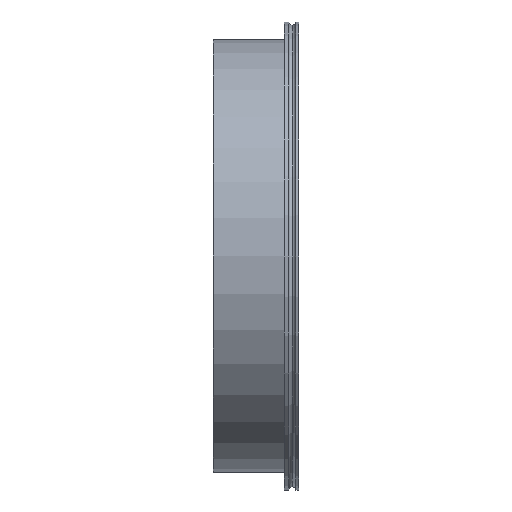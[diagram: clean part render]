
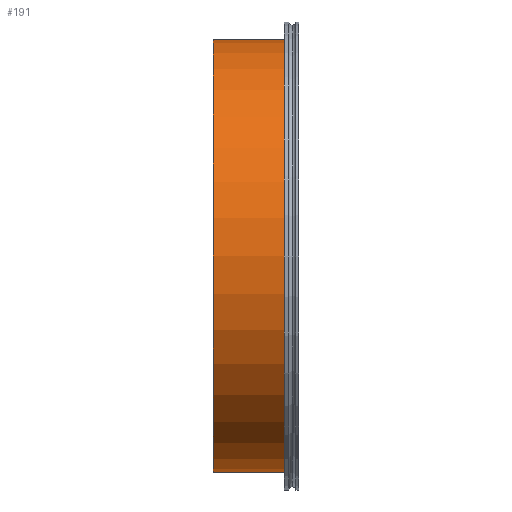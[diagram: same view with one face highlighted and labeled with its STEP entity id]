
A CAD part, left-side view. The second image highlights one B-rep face of the part: STEP entity #191.
In plain terms, the highlighted cylindrical face has radius 254 mm (diameter 508 mm), a partial arc.
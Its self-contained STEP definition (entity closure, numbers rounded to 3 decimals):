
#37 = AXIS2_PLACEMENT_3D ( 'NONE', #164, #327, #541 ) ;
#45 = ORIENTED_EDGE ( 'NONE', *, *, #577, .F. ) ;
#56 = DIRECTION ( 'NONE',  ( 0., 0., -1. ) ) ;
#68 = CARTESIAN_POINT ( 'NONE',  ( 0., 100., 254. ) ) ;
#70 = EDGE_LOOP ( 'NONE', ( #45, #509, #263, #166 ) ) ;
#127 = CARTESIAN_POINT ( 'NONE',  ( 0., 10., 0. ) ) ;
#136 = CIRCLE ( 'NONE', #655, 254. ) ;
#140 = CARTESIAN_POINT ( 'NONE',  ( 0., 100., 254. ) ) ;
#154 = CARTESIAN_POINT ( 'NONE',  ( 0., 100., 0. ) ) ;
#160 = DIRECTION ( 'NONE',  ( 0., -1., 0. ) ) ;
#164 = CARTESIAN_POINT ( 'NONE',  ( 0., 100., 0. ) ) ;
#166 = ORIENTED_EDGE ( 'NONE', *, *, #442, .T. ) ;
#168 = EDGE_CURVE ( 'NONE', #558, #424, #412, .T. ) ;
#189 = VERTEX_POINT ( 'NONE', #498 ) ;
#191 = ADVANCED_FACE ( 'NONE', ( #283 ), #339, .T. ) ;
#245 = EDGE_CURVE ( 'NONE', #558, #322, #450, .T. ) ;
#262 = AXIS2_PLACEMENT_3D ( 'NONE', #154, #276, #56 ) ;
#263 = ORIENTED_EDGE ( 'NONE', *, *, #245, .T. ) ;
#276 = DIRECTION ( 'NONE',  ( 0., -1., 0. ) ) ;
#283 = FACE_OUTER_BOUND ( 'NONE', #70, .T. ) ;
#293 = LINE ( 'NONE', #140, #505 ) ;
#302 = CARTESIAN_POINT ( 'NONE',  ( 0., 100., -254. ) ) ;
#322 = VERTEX_POINT ( 'NONE', #508 ) ;
#327 = DIRECTION ( 'NONE',  ( 0., 1., 0. ) ) ;
#339 = CYLINDRICAL_SURFACE ( 'NONE', #262, 254. ) ;
#360 = DIRECTION ( 'NONE',  ( 0., 0., 1. ) ) ;
#365 = DIRECTION ( 'NONE',  ( 0., -1., 0. ) ) ;
#412 = CIRCLE ( 'NONE', #37, 254. ) ;
#420 = DIRECTION ( 'NONE',  ( 0., 1., 0. ) ) ;
#424 = VERTEX_POINT ( 'NONE', #68 ) ;
#442 = EDGE_CURVE ( 'NONE', #322, #189, #136, .T. ) ;
#450 = LINE ( 'NONE', #547, #573 ) ;
#498 = CARTESIAN_POINT ( 'NONE',  ( 0., 10., 254. ) ) ;
#505 = VECTOR ( 'NONE', #365, 1000. ) ;
#508 = CARTESIAN_POINT ( 'NONE',  ( 0., 10., -254. ) ) ;
#509 = ORIENTED_EDGE ( 'NONE', *, *, #168, .F. ) ;
#541 = DIRECTION ( 'NONE',  ( 0., 0., 1. ) ) ;
#547 = CARTESIAN_POINT ( 'NONE',  ( 0., 100., -254. ) ) ;
#558 = VERTEX_POINT ( 'NONE', #302 ) ;
#573 = VECTOR ( 'NONE', #160, 1000. ) ;
#577 = EDGE_CURVE ( 'NONE', #424, #189, #293, .T. ) ;
#655 = AXIS2_PLACEMENT_3D ( 'NONE', #127, #420, #360 ) ;
